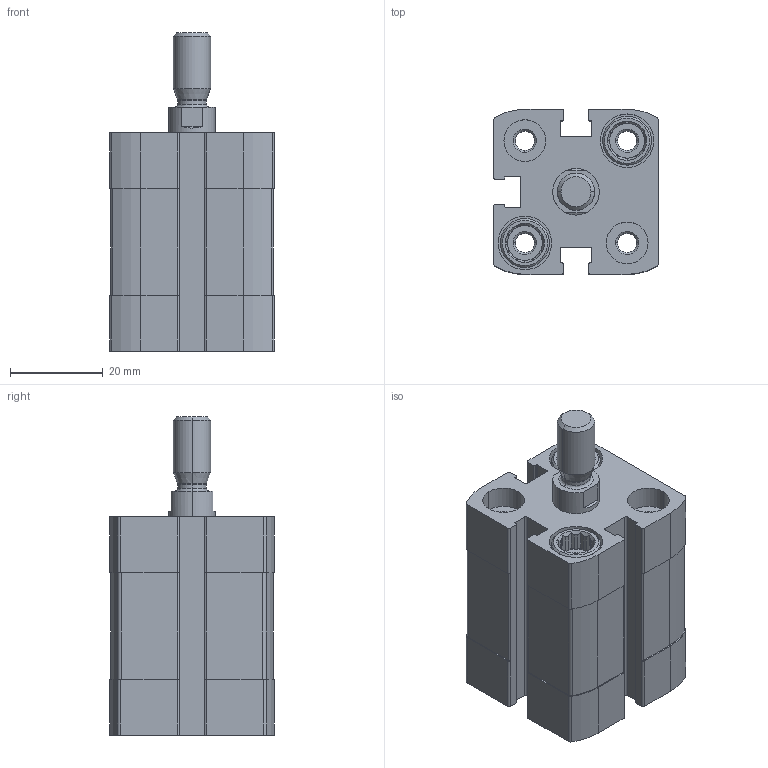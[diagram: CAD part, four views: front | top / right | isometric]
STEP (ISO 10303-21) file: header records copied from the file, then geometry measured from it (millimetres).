
FILE_DESCRIPTION (( 'STEP AP203' ), '1' );
FILE_NAME ('CCN20-10M.STEP', '2017-03-28T15:47:20', ( '' ), ( '' ), 'SwSTEP 2.0', 'SolidWorks 2016', '' );
FILE_SCHEMA (( 'CONFIG_CONTROL_DESIGN' ));
Length unit declared in the file: millimetre
Products named in the file (3): CCN-10---(Z); CCN-10_(KS); CCN20-10M
Assembly tree (2 placements, depth 2):
  CCN20-10M
    CCN-10---(Z)
    CCN-10_(KS)
Bounding box: 35.5 x 35.5 x 68.5 mm (x, y, z)
Volume: 46100.6 mm3; surface area: 20094.3 mm2
Topology: 2 solids, 2 shells, 409 faces, 1078 edges, 704 vertices
Faces by surface type: plane 231, cylinder 134, cone 40, bspline 4
Entity records: 13173 total; most frequent: CARTESIAN_POINT 2556, DIRECTION 2210, ORIENTED_EDGE 2156, EDGE_CURVE 1078, AXIS2_PLACEMENT_3D 822, VERTEX_POINT 704, VECTOR 566, LINE 566
